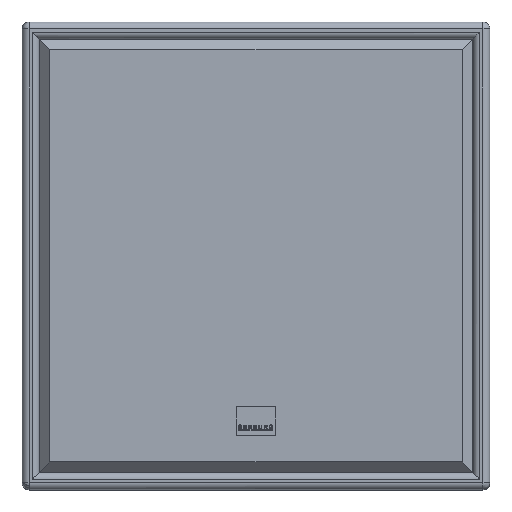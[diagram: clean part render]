
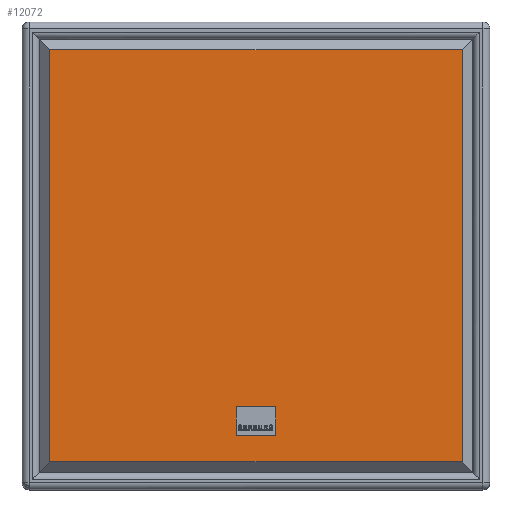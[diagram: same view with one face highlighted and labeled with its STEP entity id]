
A CAD part, top view. The second image highlights one B-rep face of the part: STEP entity #12072.
In plain terms, the highlighted planar face has unit normal (0, 0, 1) as drawn and (0, -1, 0) by its records, which use the part's own axes.
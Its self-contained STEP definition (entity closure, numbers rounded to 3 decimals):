
#1832 = VERTEX_POINT ( 'NONE', #6688 ) ;
#1833 = ORIENTED_EDGE ( 'NONE', *, *, #1834, .F. ) ;
#1834 = EDGE_CURVE ( 'NONE', #9570, #1832, #6687, .T. ) ;
#1848 = EDGE_LOOP ( 'NONE', ( #12074, #9619, #9359, #1833 ) ) ;
#6684 = DIRECTION ( 'NONE',  ( 1., 0., 0. ) ) ;
#6685 = VECTOR ( 'NONE', #6684, 1000. ) ;
#6686 = CARTESIAN_POINT ( 'NONE',  ( 424., 0., 178. ) ) ;
#6687 = LINE ( 'NONE', #6686, #6685 ) ;
#6688 = CARTESIAN_POINT ( 'NONE',  ( 414., 0., 178. ) ) ;
#9005 = EDGE_CURVE ( 'NONE', #1832, #9350, #11131, .T. ) ;
#9350 = VERTEX_POINT ( 'NONE', #11123 ) ;
#9359 = ORIENTED_EDGE ( 'NONE', *, *, #9005, .F. ) ;
#9516 = EDGE_CURVE ( 'NONE', #9350, #9901, #11112, .T. ) ;
#9570 = VERTEX_POINT ( 'NONE', #11108 ) ;
#9619 = ORIENTED_EDGE ( 'NONE', *, *, #9516, .F. ) ;
#9880 = EDGE_CURVE ( 'NONE', #9901, #9570, #11103, .T. ) ;
#9901 = VERTEX_POINT ( 'NONE', #11159 ) ;
#11103 = LINE ( 'NONE', #11166, #11165 ) ;
#11108 = CARTESIAN_POINT ( 'NONE',  ( 26., 0., 178. ) ) ;
#11109 = DIRECTION ( 'NONE',  ( -1., 0., 0. ) ) ;
#11110 = VECTOR ( 'NONE', #11109, 1000. ) ;
#11111 = CARTESIAN_POINT ( 'NONE',  ( 322., 0., -210. ) ) ;
#11112 = LINE ( 'NONE', #11111, #11110 ) ;
#11123 = CARTESIAN_POINT ( 'NONE',  ( 414., 0., -210. ) ) ;
#11128 = DIRECTION ( 'NONE',  ( 0., 0., -1. ) ) ;
#11129 = VECTOR ( 'NONE', #11128, 1000. ) ;
#11130 = CARTESIAN_POINT ( 'NONE',  ( 414., 0., -220. ) ) ;
#11131 = LINE ( 'NONE', #11130, #11129 ) ;
#11159 = CARTESIAN_POINT ( 'NONE',  ( 26., 0., -210. ) ) ;
#11164 = DIRECTION ( 'NONE',  ( 0., 0., 1. ) ) ;
#11165 = VECTOR ( 'NONE', #11164, 1000. ) ;
#11166 = CARTESIAN_POINT ( 'NONE',  ( 26., 0., -220. ) ) ;
#11332 = DIRECTION ( 'NONE',  ( 0., 0., -1. ) ) ;
#11333 = DIRECTION ( 'NONE',  ( 0., -1., 0. ) ) ;
#11334 = CARTESIAN_POINT ( 'NONE',  ( 424., 0., -220. ) ) ;
#11335 = AXIS2_PLACEMENT_3D ( 'NONE', #11334, #11333, #11332 ) ;
#11336 = PLANE ( 'NONE',  #11335 ) ;
#11337 = FACE_OUTER_BOUND ( 'NONE', #1848, .T. ) ;
#12072 = ADVANCED_FACE ( 'NONE', ( #11337 ), #11336, .T. ) ;
#12074 = ORIENTED_EDGE ( 'NONE', *, *, #9880, .F. ) ;
